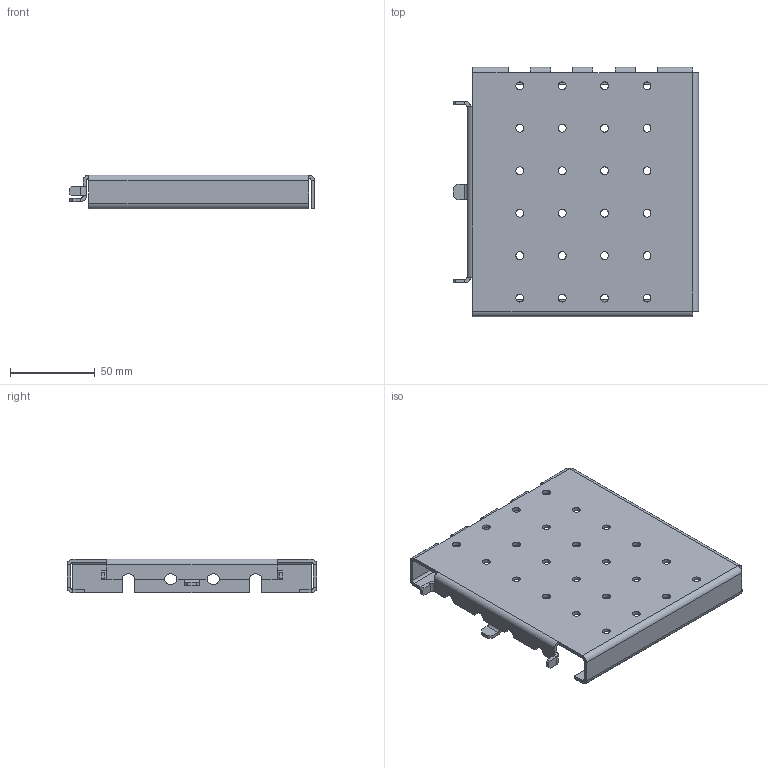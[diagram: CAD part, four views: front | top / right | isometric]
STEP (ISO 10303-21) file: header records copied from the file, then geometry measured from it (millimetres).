
FILE_DESCRIPTION(('STEP AP203'), '1');
FILE_NAME('Îãðàæäåíèÿ ñáîðíîé øèíû áîêîâîå 150x250 ìì OptiBox M 420090 ÊÝÀÇ', '', ('UNSPECIFIED'), ('UNSPECIFIED'), 'C3D Converter', 'C3D Toolkit', '');
FILE_SCHEMA(('CONFIG_CONTROL_DESIGN'));
Length unit declared in the file: millimetre
Bounding box: 144.3 x 147 x 20 mm (x, y, z)
Volume: 55506 mm3; surface area: 58494 mm2
Topology: 1 solids, 1 shells, 168 faces, 426 edges, 252 vertices
Faces by surface type: plane 102, cylinder 66
Full cylindrical faces by diameter (mm): 4.6 x24, 7.3 x2
Entity records: 4984 total; most frequent: DIRECTION 870, CARTESIAN_POINT 821, ORIENTED_EDGE 800, EDGE_CURVE 400, AXIS2_PLACEMENT_3D 301, LINE 268, VECTOR 268, VERTEX_POINT 252
